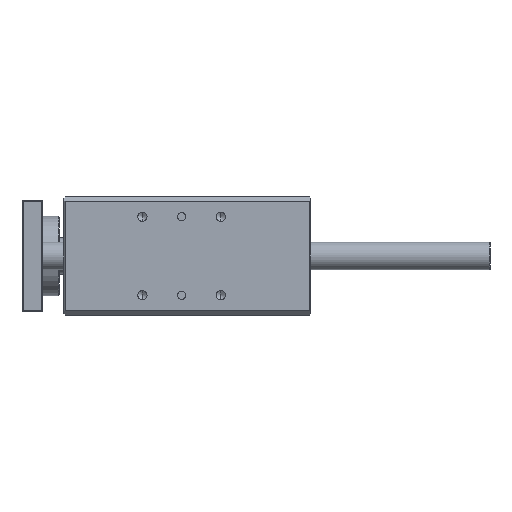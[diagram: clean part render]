
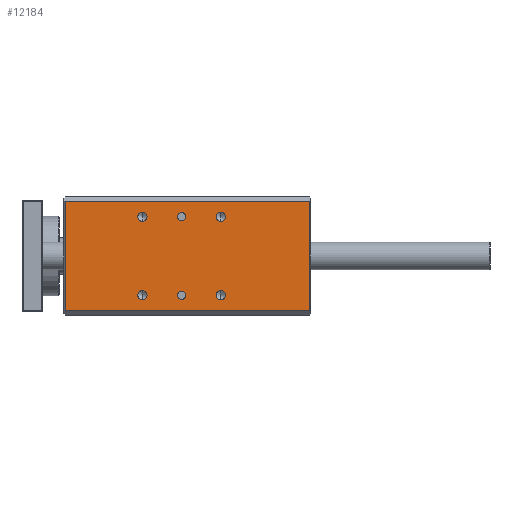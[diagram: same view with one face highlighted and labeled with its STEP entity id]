
A CAD part, front view. The second image highlights one B-rep face of the part: STEP entity #12184.
In plain terms, the highlighted planar face has unit normal (0, -1, 0).
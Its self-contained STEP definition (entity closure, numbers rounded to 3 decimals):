
#42 = CARTESIAN_POINT ( 'NONE',  ( 127.57, 56.55, 70.75 ) ) ;
#127 = CARTESIAN_POINT ( 'NONE',  ( 248.87, 56.55, 0. ) ) ;
#481 = DIRECTION ( 'NONE',  ( 0., 0., 1. ) ) ;
#506 = CARTESIAN_POINT ( 'NONE',  ( 71.87, 56.55, 3. ) ) ;
#668 = AXIS2_PLACEMENT_3D ( 'NONE', #26721, #18140, #26830 ) ;
#688 = LINE ( 'NONE', #11938, #7279 ) ;
#724 = ORIENTED_EDGE ( 'NONE', *, *, #3987, .T. ) ;
#816 = CIRCLE ( 'NONE', #20662, 3. ) ;
#899 = VERTEX_POINT ( 'NONE', #9758 ) ;
#1401 = ORIENTED_EDGE ( 'NONE', *, *, #4236, .T. ) ;
#1556 = DIRECTION ( 'NONE',  ( 0., 0., 1. ) ) ;
#1936 = CIRCLE ( 'NONE', #18935, 3.323 ) ;
#1943 = EDGE_CURVE ( 'NONE', #27141, #2359, #688, .T. ) ;
#2071 = DIRECTION ( 'NONE',  ( 0., 1., 0. ) ) ;
#2082 = ORIENTED_EDGE ( 'NONE', *, *, #11509, .F. ) ;
#2103 = EDGE_CURVE ( 'NONE', #27141, #21132, #5604, .T. ) ;
#2193 = EDGE_CURVE ( 'NONE', #4743, #10292, #24035, .T. ) ;
#2359 = VERTEX_POINT ( 'NONE', #22018 ) ;
#2498 = CARTESIAN_POINT ( 'NONE',  ( 71.87, 56.55, 82. ) ) ;
#2537 = FACE_BOUND ( 'NONE', #10708, .T. ) ;
#2810 = LINE ( 'NONE', #24498, #8695 ) ;
#3516 = CIRCLE ( 'NONE', #11922, 3.323 ) ;
#3519 = CARTESIAN_POINT ( 'NONE',  ( 184.07, 56.55, 17.573 ) ) ;
#3591 = DIRECTION ( 'NONE',  ( 0., 1., 0. ) ) ;
#3972 = CARTESIAN_POINT ( 'NONE',  ( 127.57, 56.55, 14.25 ) ) ;
#3987 = EDGE_CURVE ( 'NONE', #26102, #10546, #3516, .T. ) ;
#4160 = VERTEX_POINT ( 'NONE', #6545 ) ;
#4236 = EDGE_CURVE ( 'NONE', #7440, #21737, #26181, .T. ) ;
#4272 = CARTESIAN_POINT ( 'NONE',  ( 127.57, 56.55, 14.25 ) ) ;
#4532 = FACE_BOUND ( 'NONE', #22716, .T. ) ;
#4743 = VERTEX_POINT ( 'NONE', #24820 ) ;
#4810 = EDGE_LOOP ( 'NONE', ( #12316, #16952 ) ) ;
#4970 = AXIS2_PLACEMENT_3D ( 'NONE', #13381, #25710, #481 ) ;
#5342 = CARTESIAN_POINT ( 'NONE',  ( 247.87, 56.55, 3. ) ) ;
#5604 = LINE ( 'NONE', #19048, #19385 ) ;
#6001 = DIRECTION ( 'NONE',  ( 0., 0., 1. ) ) ;
#6384 = DIRECTION ( 'NONE',  ( 0., 1., 0. ) ) ;
#6535 = DIRECTION ( 'NONE',  ( 0., 0., 1. ) ) ;
#6545 = CARTESIAN_POINT ( 'NONE',  ( 155.82, 56.55, 67.75 ) ) ;
#6764 = EDGE_CURVE ( 'NONE', #16917, #15258, #1936, .T. ) ;
#6795 = DIRECTION ( 'NONE',  ( 0., 0., -1. ) ) ;
#6916 = CIRCLE ( 'NONE', #668, 3.323 ) ;
#6921 = CARTESIAN_POINT ( 'NONE',  ( 155.82, 56.55, 70.75 ) ) ;
#7057 = CARTESIAN_POINT ( 'NONE',  ( 184.07, 56.55, 74.073 ) ) ;
#7279 = VECTOR ( 'NONE', #1556, 1000. ) ;
#7440 = VERTEX_POINT ( 'NONE', #13401 ) ;
#7565 = AXIS2_PLACEMENT_3D ( 'NONE', #16207, #18226, #16304 ) ;
#8347 = CIRCLE ( 'NONE', #25611, 3.323 ) ;
#8695 = VECTOR ( 'NONE', #26827, 1000. ) ;
#8715 = PLANE ( 'NONE',  #8893 ) ;
#8893 = AXIS2_PLACEMENT_3D ( 'NONE', #127, #10930, #6795 ) ;
#9103 = FACE_BOUND ( 'NONE', #26188, .T. ) ;
#9405 = ORIENTED_EDGE ( 'NONE', *, *, #20839, .T. ) ;
#9456 = FACE_BOUND ( 'NONE', #4810, .T. ) ;
#9758 = CARTESIAN_POINT ( 'NONE',  ( 155.82, 56.55, 73.75 ) ) ;
#9960 = DIRECTION ( 'NONE',  ( 0., 1., 0. ) ) ;
#10292 = VERTEX_POINT ( 'NONE', #3519 ) ;
#10420 = DIRECTION ( 'NONE',  ( 0., 1., 0. ) ) ;
#10546 = VERTEX_POINT ( 'NONE', #12697 ) ;
#10572 = ORIENTED_EDGE ( 'NONE', *, *, #13853, .T. ) ;
#10708 = EDGE_LOOP ( 'NONE', ( #10572, #1401 ) ) ;
#10838 = DIRECTION ( 'NONE',  ( 0., 0., 1. ) ) ;
#10866 = CARTESIAN_POINT ( 'NONE',  ( 127.57, 56.55, 10.927 ) ) ;
#10930 = DIRECTION ( 'NONE',  ( 0., -1., 0. ) ) ;
#10953 = AXIS2_PLACEMENT_3D ( 'NONE', #4272, #6384, #21059 ) ;
#11329 = EDGE_CURVE ( 'NONE', #24726, #18256, #816, .T. ) ;
#11442 = DIRECTION ( 'NONE',  ( 0., 1., 0. ) ) ;
#11509 = EDGE_CURVE ( 'NONE', #14212, #2359, #16268, .T. ) ;
#11854 = ORIENTED_EDGE ( 'NONE', *, *, #2193, .T. ) ;
#11922 = AXIS2_PLACEMENT_3D ( 'NONE', #19553, #21765, #19928 ) ;
#11938 = CARTESIAN_POINT ( 'NONE',  ( 247.87, 56.55, 0. ) ) ;
#12154 = CARTESIAN_POINT ( 'NONE',  ( 159.87, 56.55, 82. ) ) ;
#12184 = ADVANCED_FACE ( 'NONE', ( #15720, #24569, #9103, #2537, #9456, #4532, #23917 ), #8715, .T. ) ;
#12316 = ORIENTED_EDGE ( 'NONE', *, *, #23970, .T. ) ;
#12697 = CARTESIAN_POINT ( 'NONE',  ( 127.57, 56.55, 74.073 ) ) ;
#12749 = CARTESIAN_POINT ( 'NONE',  ( 184.07, 56.55, 14.25 ) ) ;
#12804 = CARTESIAN_POINT ( 'NONE',  ( 127.57, 56.55, 67.427 ) ) ;
#12830 = ORIENTED_EDGE ( 'NONE', *, *, #14719, .T. ) ;
#13207 = CIRCLE ( 'NONE', #10953, 3.323 ) ;
#13250 = DIRECTION ( 'NONE',  ( 0., 0., 1. ) ) ;
#13301 = VECTOR ( 'NONE', #16481, 1000. ) ;
#13381 = CARTESIAN_POINT ( 'NONE',  ( 184.07, 56.55, 14.25 ) ) ;
#13401 = CARTESIAN_POINT ( 'NONE',  ( 184.07, 56.55, 67.427 ) ) ;
#13544 = ORIENTED_EDGE ( 'NONE', *, *, #26839, .T. ) ;
#13733 = CARTESIAN_POINT ( 'NONE',  ( 155.82, 56.55, 11.25 ) ) ;
#13853 = EDGE_CURVE ( 'NONE', #21737, #7440, #6916, .T. ) ;
#13888 = CIRCLE ( 'NONE', #4970, 3.323 ) ;
#14212 = VERTEX_POINT ( 'NONE', #2498 ) ;
#14719 = EDGE_CURVE ( 'NONE', #10292, #4743, #13888, .T. ) ;
#14779 = DIRECTION ( 'NONE',  ( 0., 1., 0. ) ) ;
#14943 = DIRECTION ( 'NONE',  ( -1., 0., 0. ) ) ;
#14982 = EDGE_LOOP ( 'NONE', ( #9405, #24410 ) ) ;
#15042 = CARTESIAN_POINT ( 'NONE',  ( 155.82, 56.55, 17.25 ) ) ;
#15168 = ORIENTED_EDGE ( 'NONE', *, *, #22022, .T. ) ;
#15258 = VERTEX_POINT ( 'NONE', #21627 ) ;
#15496 = ORIENTED_EDGE ( 'NONE', *, *, #1943, .T. ) ;
#15720 = FACE_BOUND ( 'NONE', #14982, .T. ) ;
#16207 = CARTESIAN_POINT ( 'NONE',  ( 155.82, 56.55, 70.75 ) ) ;
#16268 = LINE ( 'NONE', #12154, #13301 ) ;
#16304 = DIRECTION ( 'NONE',  ( 0., 0., 1. ) ) ;
#16454 = EDGE_CURVE ( 'NONE', #4160, #899, #19263, .T. ) ;
#16481 = DIRECTION ( 'NONE',  ( 1., 0., 0. ) ) ;
#16917 = VERTEX_POINT ( 'NONE', #10866 ) ;
#16952 = ORIENTED_EDGE ( 'NONE', *, *, #16454, .T. ) ;
#17619 = ORIENTED_EDGE ( 'NONE', *, *, #11329, .T. ) ;
#18140 = DIRECTION ( 'NONE',  ( 0., 1., 0. ) ) ;
#18226 = DIRECTION ( 'NONE',  ( 0., 1., 0. ) ) ;
#18256 = VERTEX_POINT ( 'NONE', #15042 ) ;
#18935 = AXIS2_PLACEMENT_3D ( 'NONE', #3972, #20863, #27060 ) ;
#19048 = CARTESIAN_POINT ( 'NONE',  ( 204.37, 56.55, 3. ) ) ;
#19251 = AXIS2_PLACEMENT_3D ( 'NONE', #24859, #10420, #6001 ) ;
#19263 = CIRCLE ( 'NONE', #20401, 3. ) ;
#19385 = VECTOR ( 'NONE', #14943, 1000. ) ;
#19553 = CARTESIAN_POINT ( 'NONE',  ( 127.57, 56.55, 70.75 ) ) ;
#19928 = DIRECTION ( 'NONE',  ( 0., 0., 1. ) ) ;
#20401 = AXIS2_PLACEMENT_3D ( 'NONE', #6921, #11442, #13250 ) ;
#20662 = AXIS2_PLACEMENT_3D ( 'NONE', #24304, #9960, #22356 ) ;
#20839 = EDGE_CURVE ( 'NONE', #15258, #16917, #13207, .T. ) ;
#20863 = DIRECTION ( 'NONE',  ( 0., 1., 0. ) ) ;
#20993 = CIRCLE ( 'NONE', #7565, 3. ) ;
#21059 = DIRECTION ( 'NONE',  ( 0., 0., 1. ) ) ;
#21132 = VERTEX_POINT ( 'NONE', #506 ) ;
#21408 = ORIENTED_EDGE ( 'NONE', *, *, #24959, .T. ) ;
#21627 = CARTESIAN_POINT ( 'NONE',  ( 127.57, 56.55, 17.573 ) ) ;
#21737 = VERTEX_POINT ( 'NONE', #7057 ) ;
#21765 = DIRECTION ( 'NONE',  ( 0., 1., 0. ) ) ;
#22018 = CARTESIAN_POINT ( 'NONE',  ( 247.87, 56.55, 82. ) ) ;
#22022 = EDGE_CURVE ( 'NONE', #18256, #24726, #22610, .T. ) ;
#22086 = ORIENTED_EDGE ( 'NONE', *, *, #2103, .F. ) ;
#22155 = AXIS2_PLACEMENT_3D ( 'NONE', #26775, #3591, #22335 ) ;
#22335 = DIRECTION ( 'NONE',  ( 0., 0., 1. ) ) ;
#22356 = DIRECTION ( 'NONE',  ( 0., 0., 1. ) ) ;
#22610 = CIRCLE ( 'NONE', #19251, 3. ) ;
#22716 = EDGE_LOOP ( 'NONE', ( #15168, #17619 ) ) ;
#23644 = AXIS2_PLACEMENT_3D ( 'NONE', #12749, #2071, #10838 ) ;
#23917 = FACE_OUTER_BOUND ( 'NONE', #26041, .T. ) ;
#23970 = EDGE_CURVE ( 'NONE', #899, #4160, #20993, .T. ) ;
#24035 = CIRCLE ( 'NONE', #23644, 3.323 ) ;
#24304 = CARTESIAN_POINT ( 'NONE',  ( 155.82, 56.55, 14.25 ) ) ;
#24375 = EDGE_LOOP ( 'NONE', ( #21408, #724 ) ) ;
#24410 = ORIENTED_EDGE ( 'NONE', *, *, #6764, .T. ) ;
#24498 = CARTESIAN_POINT ( 'NONE',  ( 71.87, 56.55, 0. ) ) ;
#24569 = FACE_BOUND ( 'NONE', #24375, .T. ) ;
#24726 = VERTEX_POINT ( 'NONE', #13733 ) ;
#24820 = CARTESIAN_POINT ( 'NONE',  ( 184.07, 56.55, 10.927 ) ) ;
#24859 = CARTESIAN_POINT ( 'NONE',  ( 155.82, 56.55, 14.25 ) ) ;
#24959 = EDGE_CURVE ( 'NONE', #10546, #26102, #8347, .T. ) ;
#25611 = AXIS2_PLACEMENT_3D ( 'NONE', #42, #14779, #6535 ) ;
#25710 = DIRECTION ( 'NONE',  ( 0., 1., 0. ) ) ;
#26041 = EDGE_LOOP ( 'NONE', ( #13544, #22086, #15496, #2082 ) ) ;
#26102 = VERTEX_POINT ( 'NONE', #12804 ) ;
#26181 = CIRCLE ( 'NONE', #22155, 3.323 ) ;
#26188 = EDGE_LOOP ( 'NONE', ( #12830, #11854 ) ) ;
#26721 = CARTESIAN_POINT ( 'NONE',  ( 184.07, 56.55, 70.75 ) ) ;
#26775 = CARTESIAN_POINT ( 'NONE',  ( 184.07, 56.55, 70.75 ) ) ;
#26827 = DIRECTION ( 'NONE',  ( 0., 0., -1. ) ) ;
#26830 = DIRECTION ( 'NONE',  ( 0., 0., 1. ) ) ;
#26839 = EDGE_CURVE ( 'NONE', #14212, #21132, #2810, .T. ) ;
#27060 = DIRECTION ( 'NONE',  ( 0., 0., 1. ) ) ;
#27141 = VERTEX_POINT ( 'NONE', #5342 ) ;
